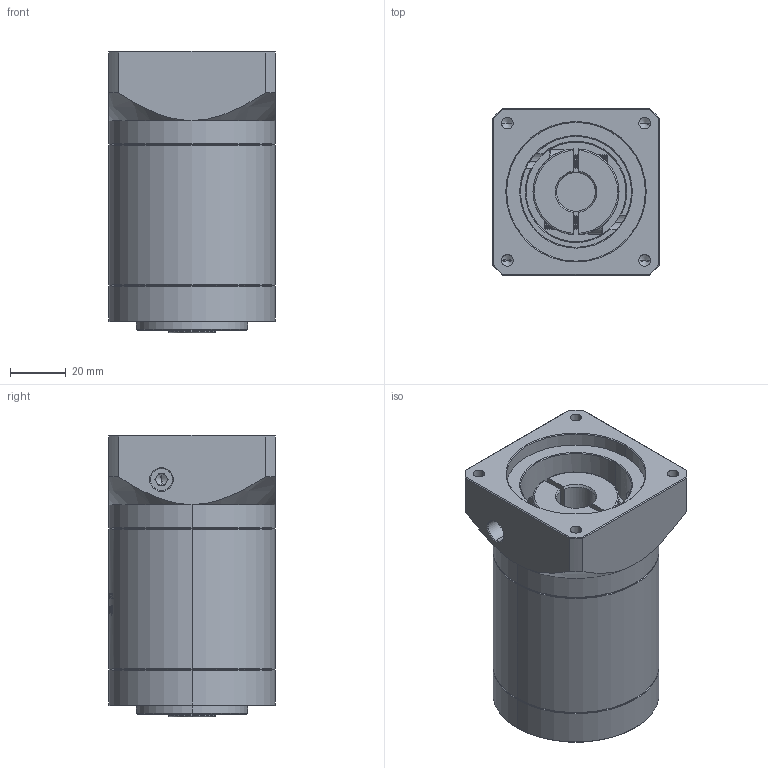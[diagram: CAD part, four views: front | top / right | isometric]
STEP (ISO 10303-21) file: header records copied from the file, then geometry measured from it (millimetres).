
FILE_DESCRIPTION (( 'STEP AP214' ), '1' );
FILE_NAME ('ZE60-K10-L2-14-50-70-M5.STEP', '2022-04-17T15:29:05', ( '' ), ( 'Microsoft' ), 'SwSTEP 2.0', 'SolidWorks 2016', '' );
FILE_SCHEMA (( 'AUTOMOTIVE_DESIGN' ));
Length unit declared in the file: millimetre
Products named in the file (1): ZE60-K10-L2-14-50-70-M5
Bounding box: 60 x 60 x 101.5 mm (x, y, z)
Volume: 255441 mm3; surface area: 44655.4 mm2
Topology: 6 solids, 6 shells, 1533 faces, 4158 edges, 2696 vertices
Faces by surface type: plane 717, cylinder 292, bspline 292, cone 214, torus 18
Entity records: 84185 total; most frequent: CARTESIAN_POINT 32115, ORIENTED_EDGE 8276, DIRECTION 6091, EDGE_CURVE 4138, VERTEX_POINT 2696, VECTOR 2143, LINE 2143, AXIS2_PLACEMENT_3D 1974
